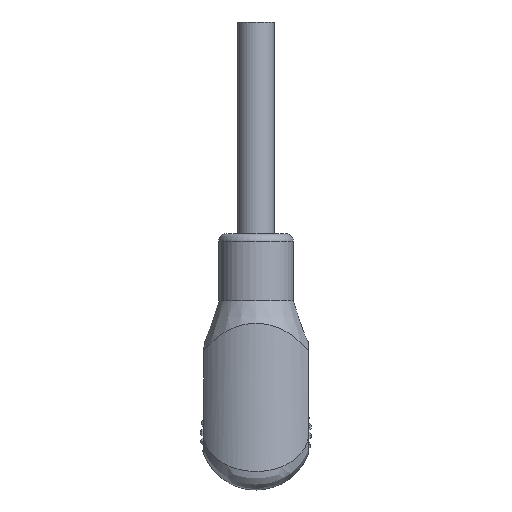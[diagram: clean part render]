
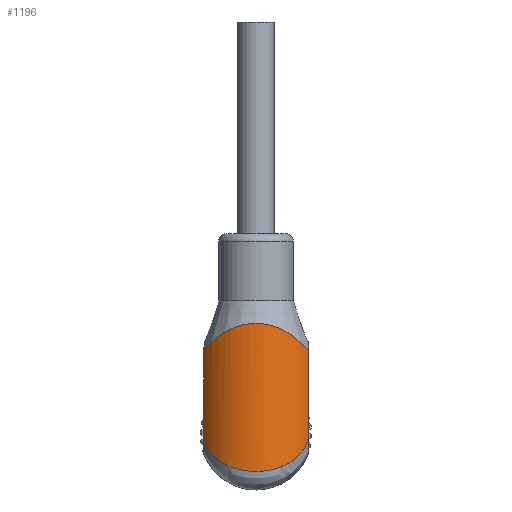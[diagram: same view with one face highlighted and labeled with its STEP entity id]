
A CAD part, front view. The second image highlights one B-rep face of the part: STEP entity #1196.
In plain terms, the highlighted cylindrical face has radius 8.606 mm (diameter 17.211 mm), a partial arc.
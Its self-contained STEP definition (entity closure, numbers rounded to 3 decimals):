
#270=CYLINDRICAL_SURFACE('',#9401,8.606);
#448=FACE_OUTER_BOUND('',#3379,.T.);
#936=B_SPLINE_CURVE_WITH_KNOTS('',3,(#13705,#13706,#13707,#13708,#13709,
#13710,#13711,#13712,#13713,#13714),.UNSPECIFIED.,.F.,.F.,(4,2,2,2,4),(0.,
0.25,0.5,0.75,1.),.UNSPECIFIED.);
#938=B_SPLINE_CURVE_WITH_KNOTS('',3,(#13730,#13731,#13732,#13733,#13734,
#13735,#13736,#13737,#13738,#13739,#13740,#13741,#13742,#13743,#13744,#13745,
#13746,#13747,#13748,#13749,#13750,#13751,#13752,#13753,#13754,#13755),
 .UNSPECIFIED.,.F.,.F.,(4,2,2,2,2,2,2,2,2,2,2,2,4),(0.,0.062,
0.094,0.109,0.125,0.25,0.5,0.75,
0.812,0.844,0.859,0.875,
1.),.UNSPECIFIED.);
#1196=ADVANCED_FACE('',(#448),#270,.T.);
#1919=LINE('',#12875,#2576);
#1980=LINE('',#13675,#2637);
#2576=VECTOR('',#10335,1.);
#2637=VECTOR('',#10418,1.);
#3379=EDGE_LOOP('',(#4122,#4123,#4124,#4125));
#4122=ORIENTED_EDGE('',*,*,#7606,.F.);
#4123=ORIENTED_EDGE('',*,*,#7729,.T.);
#4124=ORIENTED_EDGE('',*,*,#7716,.T.);
#4125=ORIENTED_EDGE('',*,*,#7733,.T.);
#6687=VERTEX_POINT('',#12874);
#6688=VERTEX_POINT('',#12876);
#6789=VERTEX_POINT('',#13674);
#6790=VERTEX_POINT('',#13676);
#7606=EDGE_CURVE('',#6687,#6688,#1919,.T.);
#7716=EDGE_CURVE('',#6790,#6789,#1980,.T.);
#7729=EDGE_CURVE('',#6687,#6790,#936,.T.);
#7733=EDGE_CURVE('',#6789,#6688,#938,.T.);
#9401=AXIS2_PLACEMENT_3D('',#13817,#10455,#10456);
#10335=DIRECTION('',(0.,0.,-1.));
#10418=DIRECTION('',(0.,0.,-1.));
#10455=DIRECTION('',(0.,0.,-1.));
#10456=DIRECTION('',(1.,0.,0.));
#12874=CARTESIAN_POINT('',(7.,-4.453,11.248));
#12875=CARTESIAN_POINT('',(7.,-4.453,18.));
#12876=CARTESIAN_POINT('',(7.,-4.453,-0.578));
#13674=CARTESIAN_POINT('',(-7.,-4.453,-0.578));
#13675=CARTESIAN_POINT('',(-7.,-4.453,18.));
#13676=CARTESIAN_POINT('',(-7.,-4.453,11.248));
#13705=CARTESIAN_POINT('',(7.,-4.453,11.248));
#13706=CARTESIAN_POINT('',(6.292,-5.442,12.174));
#13707=CARTESIAN_POINT('',(5.375,-6.302,13.044));
#13708=CARTESIAN_POINT('',(3.01,-7.622,14.449));
#13709=CARTESIAN_POINT('',(1.532,-8.051,14.945));
#13710=CARTESIAN_POINT('',(-1.511,-8.054,14.949));
#13711=CARTESIAN_POINT('',(-3.,-7.625,14.452));
#13712=CARTESIAN_POINT('',(-5.355,-6.317,13.06));
#13713=CARTESIAN_POINT('',(-6.291,-5.444,12.175));
#13714=CARTESIAN_POINT('',(-7.,-4.453,11.248));
#13730=CARTESIAN_POINT('',(-7.,-4.453,-0.578));
#13731=CARTESIAN_POINT('',(-6.947,-4.526,-0.9));
#13732=CARTESIAN_POINT('',(-6.851,-4.66,-1.223));
#13733=CARTESIAN_POINT('',(-6.628,-4.937,-1.711));
#13734=CARTESIAN_POINT('',(-6.54,-5.043,-1.874));
#13735=CARTESIAN_POINT('',(-6.385,-5.217,-2.119));
#13736=CARTESIAN_POINT('',(-6.33,-5.278,-2.201));
#13737=CARTESIAN_POINT('',(-6.21,-5.405,-2.365));
#13738=CARTESIAN_POINT('',(-6.13,-5.487,-2.467));
#13739=CARTESIAN_POINT('',(-5.665,-5.951,-3.03));
#13740=CARTESIAN_POINT('',(-5.131,-6.398,-3.479));
#13741=CARTESIAN_POINT('',(-3.18,-7.587,-4.619));
#13742=CARTESIAN_POINT('',(-1.619,-8.052,-4.999));
#13743=CARTESIAN_POINT('',(1.612,-8.053,-5.001));
#13744=CARTESIAN_POINT('',(3.15,-7.604,-4.635));
#13745=CARTESIAN_POINT('',(4.805,-6.597,-3.67));
#13746=CARTESIAN_POINT('',(5.102,-6.385,-3.463));
#13747=CARTESIAN_POINT('',(5.501,-6.067,-3.13));
#13748=CARTESIAN_POINT('',(5.626,-5.96,-3.016));
#13749=CARTESIAN_POINT('',(5.803,-5.802,-2.839));
#13750=CARTESIAN_POINT('',(5.86,-5.749,-2.779));
#13751=CARTESIAN_POINT('',(5.971,-5.645,-2.657));
#13752=CARTESIAN_POINT('',(6.008,-5.609,-2.615));
#13753=CARTESIAN_POINT('',(6.622,-4.996,-1.873));
#13754=CARTESIAN_POINT('',(6.894,-4.6,-1.222));
#13755=CARTESIAN_POINT('',(7.,-4.453,-0.578));
#13817=CARTESIAN_POINT('',(0.,0.553,18.));
